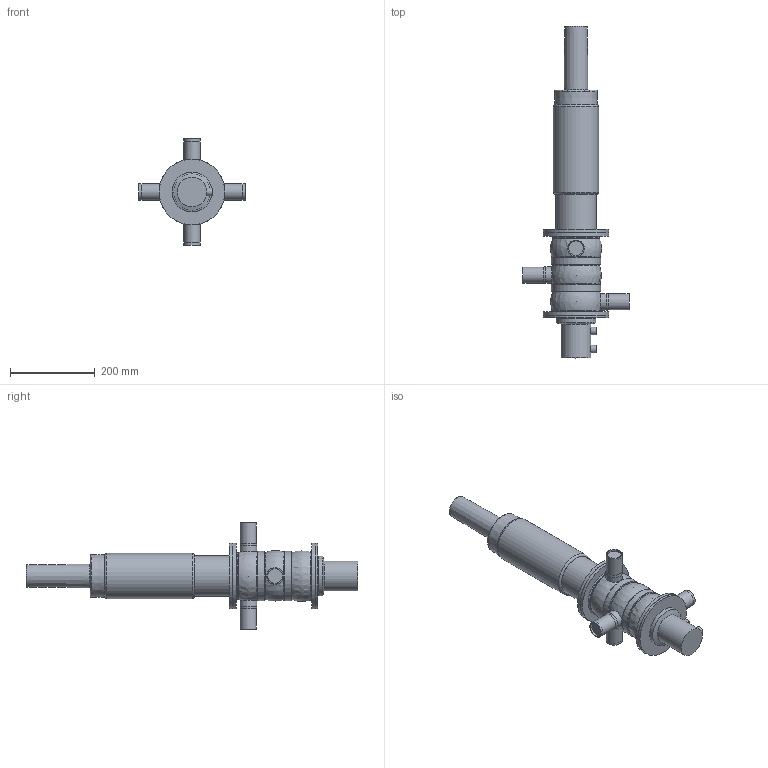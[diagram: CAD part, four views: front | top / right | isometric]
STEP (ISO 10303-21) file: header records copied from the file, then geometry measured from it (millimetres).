
FILE_DESCRIPTION(/* description */ ('Creo Elements/Direct Modeling STEP Export'),/* implementation_level */ '2;1');
FILE_NAME(/* name */ 'O:\Benutzer\Trimpop\DU4 SL\Makros\DU4 SL_VSM_stp\DU46(1-7-10-12)-1,5inch SL_VSM.stp',/* time_stamp */ '2021-10-04T12:24:21+02:00',/* author */ ('KERAMN'),/* organization */ (''),/* preprocessor_version */ 'ST-DEVELOPER v18.1',/* originating_system */ 'Autodesk Inventor 2020',/* authorisation */ '');
FILE_SCHEMA (('AUTOMOTIVE_DESIGN { 1 0 10303 214 3 1 1 }'));
Length unit declared in the file: millimetre
Products named in the file (6): DU46(1-7-10-12)-1,5inch SL_VSM; actuator_D4SL-100_yoke; DU46-1,5T(1-7-10-12)_Shrinkwrap_1; lid housing DU4-62 simplified; drain_pipe_62; D4_Prox._holder
Assembly tree (5 placements, depth 2):
  DU46(1-7-10-12)-1,5inch SL_VSM
    actuator_D4SL-100_yoke
    DU46-1,5T(1-7-10-12)_Shrinkwrap_1
    lid housing DU4-62 simplified
    drain_pipe_62
    D4_Prox._holder
Bounding box: 250 x 782.35 x 250 mm (x, y, z)
Volume: 6420762.1 mm3; surface area: 446564.1 mm2
Topology: 5 solids, 5 shells, 92 faces, 214 edges, 158 vertices
Faces by surface type: plane 39, cylinder 35, torus 7, cone 4, bspline 4, sphere 3
Full cylindrical faces by diameter (mm): 18 x2, 34.8 x4, 38.1 x4, 39.1 x4, 60 x1, 68 x1, 70 x1, 82.9 x1, 85 x1, 85.1 x1, 94 x1, 96 x1, 107 x1, 111.1 x3, 113.6 x3, 117 x2, 155 x4
Entity records: 3221 total; most frequent: CARTESIAN_POINT 738, DIRECTION 565, ORIENTED_EDGE 416, AXIS2_PLACEMENT_3D 262, EDGE_CURVE 208, CIRCLE 162, VERTEX_POINT 158, EDGE_LOOP 124
